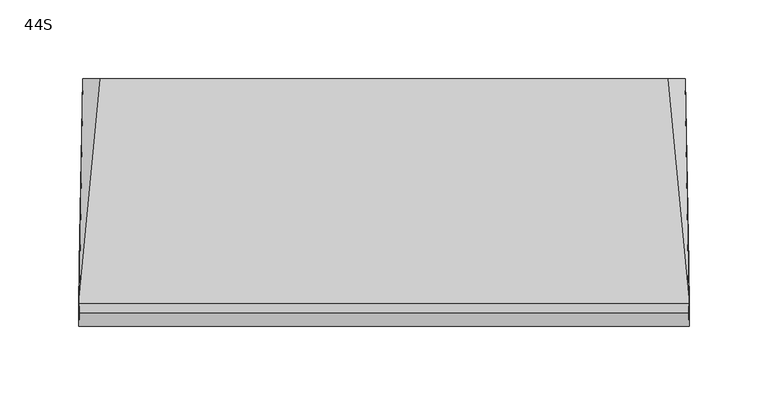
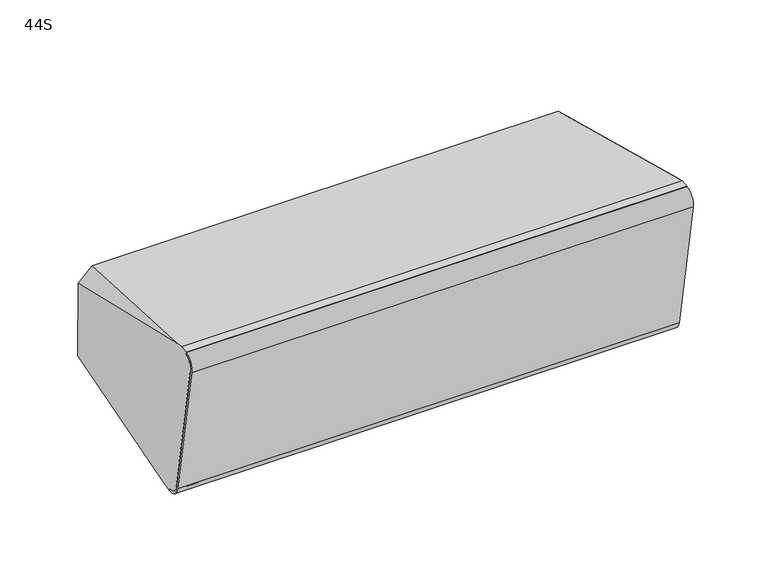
"""IFC4 building model written with IfcOpenShell, lengths in millimetres: proxy geometry, d&b xS-Series 44S Point Source : 44S."""

from ifc_helpers import new_model, si_unit, frame, origin, place, context, project, spatial, polyline, circle_curve, ellipse_curve, source, transform, mapped, element, save
from ifc_brep_helpers import plane_surface, cylinder_surface, revolved_surface, advanced_brep


def proxy_44s_9d6f9ee8(model_context):
    return source(origin(), model_context, "Body", "AdvancedBrep", [
        advanced_brep(
        [(-193.2924342, -53.8838283, -74.4884759), (-193.2924342, -54.2235668, -72.5617234), (-193.4294708, -63.4507785, -66.1007602), (-193.4294708, -82.2184008, 40.3357147), (-193.2918337, -75.7291242, 49.6033621), (-193.2918337, -76.0764205, 51.5729776), (-193.1898069, -70.2363231, 52.6027444), (-193.132384, -66.7384961, 51.9862805), (-190.8800877, 72.3274823, 17.196889), (-191.0574064, 72.3274823, -42.1555592), (-193.132384, -44.7224233, -72.873073), (193.2924342, -54.2235668, -72.5617234), (193.2924342, -53.8838283, -74.4884759), (193.132384, -44.7224233, -72.873073), (191.0574064, 72.3274823, -42.1555592), (190.8800877, 72.3274823, 17.196889), (193.132384, -66.7384961, 51.9862805), (193.1898069, -70.2363231, 52.6027444), (193.2918337, -76.0764205, 51.5729776), (193.2918337, -75.7291242, 49.6033621), (193.4294708, -82.2184008, 40.3357147), (193.4294708, -63.4507785, -66.1007602), (-181.3061997, 72.3274823, -52.2340166), (181.3061997, 72.3274823, -52.2340166), (179.9289467, 72.3274823, 27.4770213), (-179.9289467, 72.3274823, 27.4770213), (-138.5, 72.3274823, 0.6215024), (-138.5, 72.3274823, -25.3784976), (-128.5, 72.3274823, -35.3784976), (-51.5, 72.3274823, -35.3784976), (-41.5, 72.3274823, -25.3784976), (-41.5, 72.3274823, 0.6215024), (-51.5, 72.3274823, 10.6215024), (-128.5, 72.3274823, 10.6215024), (-138.5, 67.3274823, 0.6215024), (-128.5, 67.3274823, 10.6215024), (-51.5, 67.3274823, 10.6215024), (-41.5, 67.3274823, 0.6215024), (-41.5, 67.3274823, -25.3784976), (-51.5, 67.3274823, -35.3784976), (-128.5, 67.3274823, -35.3784976), (-138.5, 67.3274823, -25.3784976)],
        [
            (0, 1),
            (1, 2, ellipse_curve(frame((-193.2924342, -55.606691, -64.7176359), z_axis=(-0.9998520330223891, 0.016940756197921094, 0.0029871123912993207), x_axis=(-0.017202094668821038, -0.984662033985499, -0.17362248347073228)), 7.9662739, 7.9650952)),
            (2, 3),
            (3, 4, ellipse_curve(frame((-193.2918337, -74.3399388, 41.7249001), z_axis=(-0.9998520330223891, 0.016940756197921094, 0.0029871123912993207), x_axis=(-0.017202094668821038, -0.984662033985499, -0.17362248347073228)), 8.0011839, 8.0)),
            (4, 5),
            (5, 6),
            (6, 7),
            (7, 8),
            (8, 9),
            (9, 10),
            (10, 0),
            (11, 12),
            (12, 13),
            (13, 14),
            (14, 15),
            (15, 16),
            (16, 17),
            (17, 18),
            (18, 19),
            (19, 20, ellipse_curve(frame((193.2918337, -74.3399388, 41.7249001), z_axis=(0.9998520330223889, 0.01694075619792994, 0.0029871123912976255), x_axis=(-0.017202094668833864, 0.9846620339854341, 0.17362248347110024)), 8.0011839, 8.0)),
            (20, 21),
            (21, 11, ellipse_curve(frame((193.2924342, -55.606691, -64.7176359), z_axis=(0.9998520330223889, 0.01694075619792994, 0.0029871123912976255), x_axis=(-0.017202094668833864, 0.9846620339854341, 0.17362248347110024)), 7.9662739, 7.9650952)),
            (0, 12),
            (11, 1),
            (21, 2),
            (20, 3),
            (19, 4),
            (18, 5),
            (17, 6),
            (10, 22),
            (22, 23),
            (23, 13),
            (16, 24),
            (24, 25),
            (25, 7),
            (9, 22),
            (23, 14),
            (15, 24),
            (25, 8),
            (26, 27),
            (27, 28, circle_curve(frame((-128.5, 72.3274823, -25.3784976), z_axis=(0.0, -1.0, 0.0), x_axis=(0.0, 0.0, 1.0)), 10.0)),
            (28, 29),
            (29, 30, circle_curve(frame((-51.5, 72.3274823, -25.3784976), z_axis=(0.0, -1.0, 0.0), x_axis=(0.0, 0.0, 1.0)), 10.0)),
            (30, 31),
            (31, 32, circle_curve(frame((-51.5, 72.3274823, 0.6215024), z_axis=(0.0, -1.0, 0.0), x_axis=(0.0, 0.0, 1.0)), 10.0)),
            (32, 33),
            (33, 26, circle_curve(frame((-128.5, 72.3274823, 0.6215024), z_axis=(0.0, -1.0, 0.0), x_axis=(0.0, 0.0, 1.0)), 10.0)),
            (34, 35, circle_curve(frame((-128.5, 67.3274823, 0.6215024), z_axis=(0.0, 1.0, 0.0), x_axis=(0.0, 0.0, 1.0)), 10.0)),
            (35, 36),
            (36, 37, circle_curve(frame((-51.5, 67.3274823, 0.6215024), z_axis=(0.0, 1.0, 0.0), x_axis=(0.0, 0.0, 1.0)), 10.0)),
            (37, 38),
            (38, 39, circle_curve(frame((-51.5, 67.3274823, -25.3784976), z_axis=(0.0, 1.0, 0.0), x_axis=(0.0, 0.0, 1.0)), 10.0)),
            (39, 40),
            (40, 41, circle_curve(frame((-128.5, 67.3274823, -25.3784976), z_axis=(0.0, 1.0, 0.0), x_axis=(0.0, 0.0, 1.0)), 10.0)),
            (41, 34),
            (41, 27),
            (26, 34),
            (40, 28),
            (39, 29),
            (38, 30),
            (37, 31),
            (36, 32),
            (35, 33),
        ],
        [
            plane_surface(frame((-193.8309972, -113.1899198, 81.5842244), z_axis=(-0.9998520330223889, 0.01694075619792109, 0.00298711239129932), x_axis=(0.0, 0.17364817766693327, -0.9848077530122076))),
            plane_surface(frame((190.7119283, 65.3481506, 113.0653033), z_axis=(0.9998520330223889, 0.01694075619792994, 0.0029871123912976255), x_axis=(0.0, 0.17364817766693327, -0.9848077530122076))),
            plane_surface(frame((-207.1452552, -53.8838283, -74.4884759), z_axis=(0.0, -0.9848077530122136, -0.1736481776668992), x_axis=(1.0, 0.0, 0.0))),
            cylinder_surface(frame((207.1452552, -55.606691, -64.7176359), z_axis=(-1.0, 0.0, 0.0), x_axis=(0.0, 0.17364817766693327, -0.9848077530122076)), 7.9650952),
            plane_surface(frame((-207.1452552, -63.4507785, -66.1007602), z_axis=(0.0, -0.9848077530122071, -0.17364817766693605), x_axis=(1.0, 0.0, 0.0))),
            cylinder_surface(frame((207.1452552, -74.3399388, 41.7249001), z_axis=(-1.0, 0.0, 0.0), x_axis=(0.0, 0.17364817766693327, -0.9848077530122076)), 8.0),
            plane_surface(frame((-207.1452552, -75.7291242, 49.6033621), z_axis=(0.0, -0.9848077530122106, -0.17364817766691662), x_axis=(1.0, 0.0, 0.0))),
            plane_surface(frame((-207.1452552, -76.0764205, 51.5729776), z_axis=(0.0, -0.17364817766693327, 0.9848077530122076), x_axis=(1.0, 0.0, 0.0))),
            plane_surface(frame((-207.1452552, -48.0093563, -73.452648), z_axis=(0.0, 0.17364817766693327, -0.9848077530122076), x_axis=(1.0, 0.0, 0.0))),
            plane_surface(frame((0.0, 72.3274823, 27.4770213), z_axis=(0.0, 0.17356696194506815, 0.9848220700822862), x_axis=(-1.0, 0.0, 0.0))),
            plane_surface(frame((-186.6967137, 84.7836622, -43.1654853), z_axis=(-0.7053631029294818, 0.19160270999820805, -0.6824597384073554), x_axis=(0.7071067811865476, 0.12278780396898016, -0.6963642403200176))),
            plane_surface(frame((186.6967137, 84.7836622, -43.1654853), z_axis=(0.7053631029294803, 0.19160270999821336, -0.6824597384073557), x_axis=(0.7071067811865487, -0.12278780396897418, 0.6963642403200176))),
            plane_surface(frame((186.6967137, 73.5026927, 20.812072), z_axis=(0.6719558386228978, 0.1899547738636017, 0.7158159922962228), x_axis=(-0.7071067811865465, -0.12278780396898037, 0.6963642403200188))),
            plane_surface(frame((-186.6967137, 73.5026927, 20.812072), z_axis=(-0.6719558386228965, 0.18995477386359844, 0.7158159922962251), x_axis=(-0.7071067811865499, 0.12278780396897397, -0.6963642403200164))),
            plane_surface(frame((-250.0, 72.3274823, -69.7587976), z_axis=(0.0, 1.0, 0.0), x_axis=(1.0, 0.0, 0.0))),
            plane_surface(frame((-138.5, 67.3274823, -52.2340166), z_axis=(0.0, 1.0, 0.0), x_axis=(0.0, 0.0, -1.0))),
            plane_surface(frame((-138.5, 67.3274823, 0.6215024), z_axis=(1.0, 0.0, 0.0), x_axis=(0.0, 1.0, 0.0))),
            revolved_surface(polyline([(-128.5, 67.3274823, -15.3784976), (-128.5, 72.3274823, -15.3784976)]), (-128.5, 72.3274823, -25.3784976), (0.0, -1.0, 0.0)),
            plane_surface(frame((-128.5, 67.3274823, -35.3784976), z_axis=(0.0, 0.0, 1.0), x_axis=(0.0, 1.0, 0.0))),
            revolved_surface(polyline([(-51.5, 67.3274823, -15.3784976), (-51.5, 72.3274823, -15.3784976)]), (-51.5, 72.3274823, -25.3784976), (0.0, -1.0, 0.0)),
            plane_surface(frame((-41.5, 67.3274823, -25.3784976), z_axis=(-1.0, 0.0, 0.0), x_axis=(0.0, 1.0, 0.0))),
            revolved_surface(polyline([(-51.5, 67.3274823, 10.6215024), (-51.5, 72.3274823, 10.6215024)]), (-51.5, 72.3274823, 0.6215024), (0.0, -1.0, 0.0)),
            plane_surface(frame((-51.5, 67.3274823, 10.6215024), z_axis=(0.0, 0.0, -1.0), x_axis=(0.0, 1.0, 0.0))),
            revolved_surface(polyline([(-128.5, 67.3274823, 10.6215024), (-128.5, 72.3274823, 10.6215024)]), (-128.5, 72.3274823, 0.6215024), (0.0, -1.0, 0.0)),
        ],
        [
            (0, [[1, 2, 3, 4, 5, 6, 7, 8, 9, 10, 11]]),
            (1, [[12, 13, 14, 15, 16, 17, 18, 19, 20, 21, 22]]),
            (2, [[23, -12, 24, -1]]),
            (3, [[-24, -22, 25, -2]]),
            (4, [[-25, -21, 26, -3]]),
            (5, [[-26, -20, 27, -4]]),
            (6, [[-27, -19, 28, -5]]),
            (7, [[-28, -18, 29, -6]]),
            (8, [[-23, -11, 30, 31, 32, -13]]),
            (9, [[-29, -17, 33, 34, 35, -7]]),
            (10, [[-30, -10, 36]]),
            (11, [[-32, 37, -14]]),
            (12, [[-33, -16, 38]]),
            (13, [[-35, 39, -8]]),
            (14, [[-31, -36, -9, -39, -34, -38, -15, -37], [40, 41, 42, 43, 44, 45, 46, 47]]),
            (15, [[48, 49, 50, 51, 52, 53, 54, 55]]),
            (16, [[-55, 56, -40, 57]]),
            (17, [[-54, 58, -41, -56]]),
            (18, [[-53, 59, -42, -58]]),
            (19, [[-52, 60, -43, -59]]),
            (20, [[-51, 61, -44, -60]]),
            (21, [[-50, 62, -45, -61]]),
            (22, [[-49, 63, -46, -62]]),
            (23, [[-48, -57, -47, -63]]),
        ],
    ),
        advanced_brep(
        [(-193.4294708, -82.2184008, 40.3357147), (-193.4294708, -63.4507785, -66.1007602), (-193.2924342, -54.2235668, -72.5617234), (-193.2924342, -53.8838283, -74.4884759), (-193.4644806, -65.4683876, -66.3768802), (-193.4644806, -84.2223908, 39.9823572), (-193.2918337, -76.0824817, 51.6073522), (-193.2918337, -75.7291242, 49.6033621), (193.4294708, -63.4507785, -66.1007602), (193.4294708, -82.2184008, 40.3357147), (193.2918337, -75.7291242, 49.6033621), (193.2918337, -76.0824817, 51.6073522), (193.4644806, -84.2223908, 39.9823572), (193.4644806, -65.4683876, -66.3768802), (193.2924342, -53.8838283, -74.4884759), (193.2924342, -54.2235668, -72.5617234)],
        [
            (0, 1),
            (1, 2, ellipse_curve(frame((-193.2924342, -55.606691, -64.7176359), z_axis=(0.9998520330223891, -0.016940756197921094, -0.0029871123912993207), x_axis=(0.017202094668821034, 0.9846620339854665, 0.1736224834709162)), 7.9662739, 7.9650952)),
            (2, 3),
            (3, 4, ellipse_curve(frame((-193.2924342, -55.6203101, -64.6403984), z_axis=(-0.9998520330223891, 0.016940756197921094, 0.0029871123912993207), x_axis=(-0.017202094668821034, -0.9846620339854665, -0.1736224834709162)), 10.0014799, 10.0)),
            (4, 5),
            (5, 6, ellipse_curve(frame((-193.2918337, -74.3399388, 41.7249001), z_axis=(-0.9998520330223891, 0.016940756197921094, 0.0029871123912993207), x_axis=(-0.017202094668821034, -0.9846620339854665, -0.1736224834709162)), 10.0363899, 10.0349048)),
            (6, 7),
            (7, 0, ellipse_curve(frame((-193.2918337, -74.3399388, 41.7249001), z_axis=(0.9998520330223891, -0.016940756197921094, -0.0029871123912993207), x_axis=(0.017202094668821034, 0.9846620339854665, 0.1736224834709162)), 8.0011839, 8.0)),
            (8, 9),
            (9, 10, ellipse_curve(frame((193.2918337, -74.3399388, 41.7249001), z_axis=(-0.9998520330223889, -0.01694075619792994, -0.0029871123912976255), x_axis=(0.017202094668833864, -0.9846620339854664, -0.1736224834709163)), 8.0011839, 8.0)),
            (10, 11),
            (11, 12, ellipse_curve(frame((193.2918337, -74.3399388, 41.7249001), z_axis=(0.9998520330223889, 0.01694075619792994, 0.0029871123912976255), x_axis=(-0.017202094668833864, 0.9846620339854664, 0.1736224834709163)), 10.0363899, 10.0349048)),
            (12, 13),
            (13, 14, ellipse_curve(frame((193.2924342, -55.6203101, -64.6403984), z_axis=(0.9998520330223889, 0.01694075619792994, 0.0029871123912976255), x_axis=(-0.017202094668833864, 0.9846620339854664, 0.1736224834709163)), 10.0014799, 10.0)),
            (14, 15),
            (15, 8, ellipse_curve(frame((193.2924342, -55.606691, -64.7176359), z_axis=(-0.9998520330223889, -0.01694075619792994, -0.0029871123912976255), x_axis=(0.017202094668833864, -0.9846620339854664, -0.1736224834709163)), 7.9662739, 7.9650952)),
            (0, 9),
            (8, 1),
            (15, 2),
            (14, 3),
            (13, 4),
            (12, 5),
            (11, 6),
            (10, 7),
        ],
        [
            plane_surface(frame((-193.8309972, -113.1899198, 81.5842244), z_axis=(-0.9998520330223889, 0.01694075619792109, 0.00298711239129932), x_axis=(0.0, 0.17364817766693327, -0.9848077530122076))),
            plane_surface(frame((190.7119283, 65.3481506, 113.0653033), z_axis=(0.9998520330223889, 0.01694075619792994, 0.0029871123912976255), x_axis=(0.0, 0.17364817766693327, -0.9848077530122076))),
            plane_surface(frame((-202.5, -82.2184008, 40.3357147), z_axis=(0.0, 0.9848077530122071, 0.17364817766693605), x_axis=(1.0, 0.0, 0.0))),
            revolved_surface(polyline([(193.4294708, -56.98981526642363, -56.87354839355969), (-193.4294708, -56.98981526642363, -56.87354839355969)]), (202.5, -55.606691, -64.7176359), (1.0, 0.0, 0.0)),
            plane_surface(frame((-202.5, -54.2235668, -72.5617234), z_axis=(0.0, 0.9848077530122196, 0.17364817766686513), x_axis=(1.0, 0.0, 0.0))),
            cylinder_surface(frame((202.5, -55.6203101, -64.6403984), z_axis=(-1.0, 0.0, 0.0), x_axis=(0.0, -0.17364817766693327, 0.9848077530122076)), 10.0),
            plane_surface(frame((-202.5, -65.4683876, -66.3768802), z_axis=(0.0, -0.984807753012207, -0.17364817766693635), x_axis=(1.0, 0.0, 0.0))),
            cylinder_surface(frame((202.5, -74.3399388, 41.7249001), z_axis=(-1.0, 0.0, 0.0), x_axis=(0.0, -0.17364817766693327, 0.9848077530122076)), 10.0349048),
            plane_surface(frame((-202.5, -76.0824817, 51.6073522), z_axis=(0.0, 0.9848077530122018, 0.17364817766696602), x_axis=(1.0, 0.0, 0.0))),
            revolved_surface(polyline([(193.42947082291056, -75.72912422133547, 49.60336212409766), (-193.42947082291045, -75.72912422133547, 49.60336212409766)]), (202.5, -74.3399388, 41.7249001), (1.0, 0.0, 0.0)),
        ],
        [
            (0, [[1, 2, 3, 4, 5, 6, 7, 8]]),
            (1, [[9, 10, 11, 12, 13, 14, 15, 16]]),
            (2, [[17, -9, 18, -1]]),
            (3, [[-18, -16, 19, -2]]),
            (4, [[-19, -15, 20, -3]]),
            (5, [[-20, -14, 21, -4]]),
            (6, [[-21, -13, 22, -5]]),
            (7, [[-22, -12, 23, -6]]),
            (8, [[-23, -11, 24, -7]]),
            (9, [[-17, -8, -24, -10]]),
        ],
    ),
        advanced_brep(
        [(-193.4294708, -82.2184008, 40.3357147), (-193.4294708, -63.4507785, -66.1007602), (-193.2924342, -54.2235668, -72.5617234), (-193.2924342, -53.8838283, -74.4884759), (-193.4644806, -65.4683876, -66.3768802), (-193.4644806, -84.2223908, 39.9823572), (-193.2918337, -76.0824817, 51.6073522), (-193.2918337, -75.7291242, 49.6033621), (193.4294708, -63.4507785, -66.1007602), (193.4294708, -82.2184008, 40.3357147), (193.2918337, -75.7291242, 49.6033621), (193.2918337, -76.0824817, 51.6073522), (193.4644806, -84.2223908, 39.9823572), (193.4644806, -65.4683876, -66.3768802), (193.2924342, -53.8838283, -74.4884759), (193.2924342, -54.2235668, -72.5617234)],
        [
            (0, 1),
            (1, 2, ellipse_curve(frame((-193.2924342, -55.606691, -64.7176359), z_axis=(0.9998520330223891, -0.016940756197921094, -0.0029871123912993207), x_axis=(0.017202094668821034, 0.9846620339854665, 0.1736224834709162)), 7.9662739, 7.9650952)),
            (2, 3),
            (3, 4, ellipse_curve(frame((-193.2924342, -55.6203101, -64.6403984), z_axis=(-0.9998520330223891, 0.016940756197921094, 0.0029871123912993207), x_axis=(-0.017202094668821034, -0.9846620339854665, -0.1736224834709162)), 10.0014799, 10.0)),
            (4, 5),
            (5, 6, ellipse_curve(frame((-193.2918337, -74.3399388, 41.7249001), z_axis=(-0.9998520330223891, 0.016940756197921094, 0.0029871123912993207), x_axis=(-0.017202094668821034, -0.9846620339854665, -0.1736224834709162)), 10.0363899, 10.0349048)),
            (6, 7),
            (7, 0, ellipse_curve(frame((-193.2918337, -74.3399388, 41.7249001), z_axis=(0.9998520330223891, -0.016940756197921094, -0.0029871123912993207), x_axis=(0.017202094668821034, 0.9846620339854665, 0.1736224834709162)), 8.0011839, 8.0)),
            (8, 9),
            (9, 10, ellipse_curve(frame((193.2918337, -74.3399388, 41.7249001), z_axis=(-0.9998520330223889, -0.01694075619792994, -0.0029871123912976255), x_axis=(0.017202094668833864, -0.9846620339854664, -0.1736224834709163)), 8.0011839, 8.0)),
            (10, 11),
            (11, 12, ellipse_curve(frame((193.2918337, -74.3399388, 41.7249001), z_axis=(0.9998520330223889, 0.01694075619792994, 0.0029871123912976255), x_axis=(-0.017202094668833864, 0.9846620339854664, 0.1736224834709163)), 10.0363899, 10.0349048)),
            (12, 13),
            (13, 14, ellipse_curve(frame((193.2924342, -55.6203101, -64.6403984), z_axis=(0.9998520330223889, 0.01694075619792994, 0.0029871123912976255), x_axis=(-0.017202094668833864, 0.9846620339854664, 0.1736224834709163)), 10.0014799, 10.0)),
            (14, 15),
            (15, 8, ellipse_curve(frame((193.2924342, -55.606691, -64.7176359), z_axis=(-0.9998520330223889, -0.01694075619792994, -0.0029871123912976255), x_axis=(0.017202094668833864, -0.9846620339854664, -0.1736224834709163)), 7.9662739, 7.9650952)),
            (0, 9),
            (8, 1),
            (15, 2),
            (14, 3),
            (13, 4),
            (12, 5),
            (11, 6),
            (10, 7),
        ],
        [
            plane_surface(frame((-193.8309972, -113.1899198, 81.5842244), z_axis=(-0.9998520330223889, 0.01694075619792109, 0.00298711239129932), x_axis=(0.0, 0.17364817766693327, -0.9848077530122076))),
            plane_surface(frame((190.7119283, 65.3481506, 113.0653033), z_axis=(0.9998520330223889, 0.01694075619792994, 0.0029871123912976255), x_axis=(0.0, 0.17364817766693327, -0.9848077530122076))),
            plane_surface(frame((-202.5, -82.2184008, 40.3357147), z_axis=(0.0, 0.9848077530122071, 0.17364817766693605), x_axis=(1.0, 0.0, 0.0))),
            revolved_surface(polyline([(193.4294708, -56.98981526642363, -56.87354839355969), (-193.4294708, -56.98981526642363, -56.87354839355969)]), (202.5, -55.606691, -64.7176359), (1.0, 0.0, 0.0)),
            plane_surface(frame((-202.5, -54.2235668, -72.5617234), z_axis=(0.0, 0.9848077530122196, 0.17364817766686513), x_axis=(1.0, 0.0, 0.0))),
            cylinder_surface(frame((202.5, -55.6203101, -64.6403984), z_axis=(-1.0, 0.0, 0.0), x_axis=(0.0, -0.17364817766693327, 0.9848077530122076)), 10.0),
            plane_surface(frame((-202.5, -65.4683876, -66.3768802), z_axis=(0.0, -0.984807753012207, -0.17364817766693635), x_axis=(1.0, 0.0, 0.0))),
            cylinder_surface(frame((202.5, -74.3399388, 41.7249001), z_axis=(-1.0, 0.0, 0.0), x_axis=(0.0, -0.17364817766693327, 0.9848077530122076)), 10.0349048),
            plane_surface(frame((-202.5, -76.0824817, 51.6073522), z_axis=(0.0, 0.9848077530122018, 0.17364817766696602), x_axis=(1.0, 0.0, 0.0))),
            revolved_surface(polyline([(193.42947082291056, -75.72912422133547, 49.60336212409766), (-193.42947082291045, -75.72912422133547, 49.60336212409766)]), (202.5, -74.3399388, 41.7249001), (1.0, 0.0, 0.0)),
        ],
        [
            (0, [[1, 2, 3, 4, 5, 6, 7, 8]]),
            (1, [[9, 10, 11, 12, 13, 14, 15, 16]]),
            (2, [[17, -9, 18, -1]]),
            (3, [[-18, -16, 19, -2]]),
            (4, [[-19, -15, 20, -3]]),
            (5, [[-20, -14, 21, -4]]),
            (6, [[-21, -13, 22, -5]]),
            (7, [[-22, -12, 23, -6]]),
            (8, [[-23, -11, 24, -7]]),
            (9, [[-17, -8, -24, -10]]),
        ],
    ),
    ])


if __name__ == "__main__":
    model = new_model("IFC4")
    model_context = context("Model", 3, world=origin())
    ifc_project = project(units=[si_unit("LENGTHUNIT", "METRE", prefix="MILLI")], contexts=[model_context])
    site = spatial("IfcSite", under=ifc_project)
    building = spatial("IfcBuilding", under=site)
    placement = place(None, origin())
    proxy_44s_shape = proxy_44s_9d6f9ee8(model_context)
    element("IfcBuildingElementProxy", 1, Name="d&b xS-Series 44S Point Source : 44S", ObjectType="d&b xS-Series 44S Point Source : 44S", at=placement, inside=building, context=model_context, shape_type="MappedRepresentation", body=[
        mapped(proxy_44s_shape, transform((0.0, 0.0, 0.0), x_axis=(1.0, 0.0, 0.0), y_axis=(0.0, 1.0, 0.0), z_axis=(0.0, 0.0, 1.0))),
    ])
    save(model, "model.ifc")
